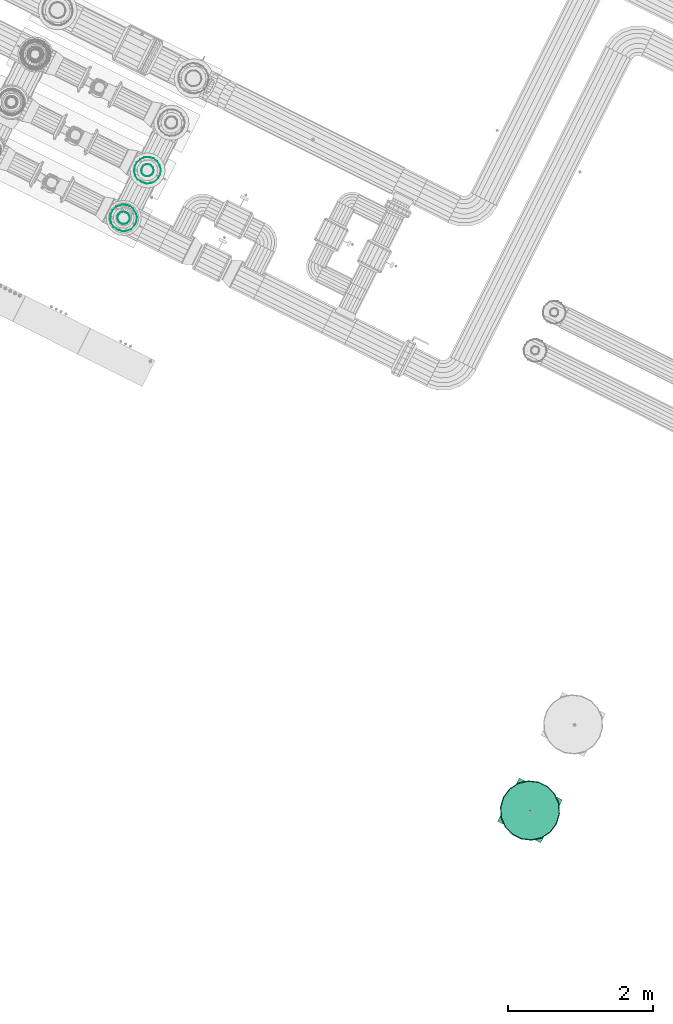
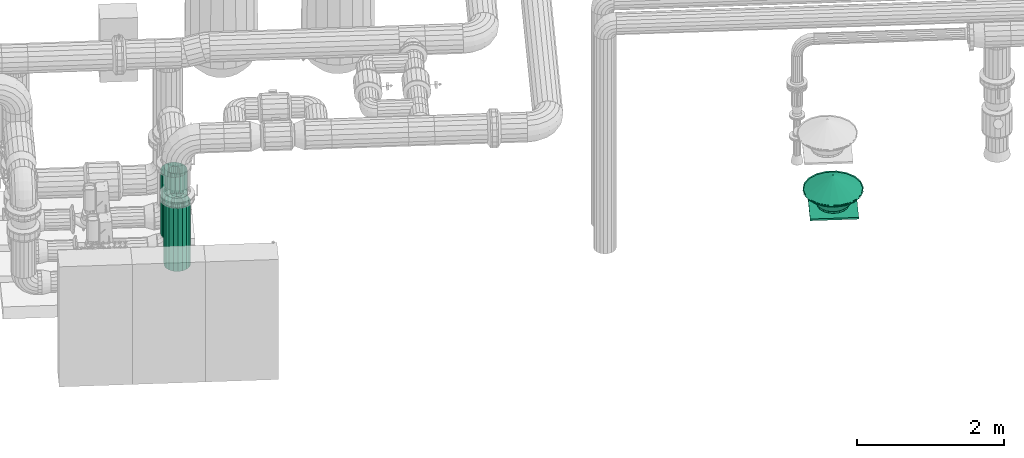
# One storey, part 2 of 152: 2 flow segments, 1 flow moving device.
"""IFC2X3 building model written with IfcOpenShell, lengths in metres."""

import ifcopenshell
import ifcopenshell.guid

model = None  # the IFC model being written
_history = None  # IfcOwnerHistory: only IFC2X3 demands one
_inside = {}  # id of a spatial element -> (the spatial element, [elements in it])
_under = {}  # id of a project, library or spatial element -> (it, [spatial elements below it])
_declared = {}  # id of a project -> (the project, [libraries it declares])
_typed = {}  # id of a type object -> (the type object, [elements of that type])
_made_of = {}  # id of a material, layer set ... -> (it, [elements and type objects made of it])


def new_model(schema):
    """Start an empty IFC model of exactly this schema.

    Asked for "IFC4X3", IfcOpenShell would pick the latest addendum, in which some entities
    have other attributes; the version numbers below select the first issue.
    IFC2X3 requires an IfcOwnerHistory on every rooted entity: one is made here for all.
    """
    global model, _history
    if schema == "IFC4X3":
        model = ifcopenshell.file(schema_version=(4, 3, 0, 0))
    else:
        model = ifcopenshell.file(schema=schema)
    _inside.clear()
    _under.clear()
    _declared.clear()
    _typed.clear()
    _made_of.clear()
    _history = None
    if model.schema == "IFC2X3":
        org = make("IfcOrganization", Name="unknown")
        user = make(
            "IfcPersonAndOrganization",
            ThePerson=make("IfcPerson", FamilyName="unknown"),
            TheOrganization=org,
        )
        app = make(
            "IfcApplication",
            ApplicationDeveloper=org,
            Version="unknown",
            ApplicationFullName="unknown",
            ApplicationIdentifier="unknown",
        )
        _history = make(
            "IfcOwnerHistory",
            OwningUser=user,
            OwningApplication=app,
            ChangeAction="ADDED",
            CreationDate=0,
        )
    return model


def make(cls, **values):
    """One entity of the class cls with the attributes given. An attribute that is None is left unset."""
    return model.create_entity(
        cls, **{name: value for name, value in values.items() if value is not None}
    )


def rooted(cls, **values):
    """An entity with a GlobalId (a new one), such as an element, a storey or a relation."""
    return make(cls, GlobalId=ifcopenshell.guid.new(), OwnerHistory=_history, **values)


def si_unit(unit_type, name, prefix=None):
    """IfcSIUnit, for example si_unit("LENGTHUNIT", "METRE", prefix="MILLI")."""
    return make("IfcSIUnit", UnitType=unit_type, Prefix=prefix, Name=name)


def derived_unit(unit_type, elements):
    """IfcDerivedUnit: a product of units, each with its exponent."""
    return make(
        "IfcDerivedUnit",
        Elements=[
            make("IfcDerivedUnitElement", Unit=unit, Exponent=power)
            for unit, power in elements
        ],
        UnitType=unit_type,
    )


def assignment(units):
    """IfcUnitAssignment: the units of a project."""
    return None if units is None else make("IfcUnitAssignment", Units=units)


def point(xyz):
    """IfcCartesianPoint."""
    return None if xyz is None else make("IfcCartesianPoint", Coordinates=xyz)


def direction(xyz):
    """IfcDirection."""
    return None if xyz is None else make("IfcDirection", DirectionRatios=xyz)


def frame(location, z_axis=None, x_axis=None):
    """IfcAxis2Placement3D, a coordinate frame: its origin and axes. An axis left out is left unset."""
    return make(
        "IfcAxis2Placement3D",
        Location=point(location),
        Axis=direction(z_axis),
        RefDirection=direction(x_axis),
    )


def origin():
    """The frame at (0, 0, 0) with its axes left unset."""
    return frame((0.0, 0.0, 0.0))


def place(relative_to, where):
    """IfcLocalPlacement: puts the frame where relative to a parent placement (None: the world)."""
    return make(
        "IfcLocalPlacement", PlacementRelTo=relative_to, RelativePlacement=where
    )


def context(
    kind, dimensions, precision=None, world=None, true_north=None, identifier=None
):
    """IfcGeometricRepresentationContext, for example the 3D "Model" context."""
    return make(
        "IfcGeometricRepresentationContext",
        ContextIdentifier=identifier,
        ContextType=kind,
        CoordinateSpaceDimension=dimensions,
        Precision=precision,
        WorldCoordinateSystem=world,
        TrueNorth=true_north,
    )


def subcontext(parent, identifier, kind, view, scale=None):
    """IfcGeometricRepresentationSubContext, for example "Body" below "Model"."""
    return make(
        "IfcGeometricRepresentationSubContext",
        ContextIdentifier=identifier,
        ContextType=kind,
        ParentContext=parent,
        TargetScale=scale,
        TargetView=view,
    )


def project(units=None, contexts=None):
    """IfcProject with its units and contexts."""
    return rooted(
        "IfcProject",
        Name="project",
        RepresentationContexts=contexts,
        UnitsInContext=assignment(units),
    )


def spatial(cls, under=None, at=None, **own):
    """A site, building, storey or space (cls), placed at a placement, below another one or the project."""
    s = rooted(cls, ObjectPlacement=at, **own)
    if under is not None:
        _under.setdefault(under.id(), (under, []))[1].append(s)
    return s


def faces_of(points, faces, orient=None, outer=None):
    """IfcFace entities. A face is a list of loops; a loop is a list of indices into points, from 0.

    orient and outer hold one flag for each loop. By default every Orientation is true, the
    first loop of a face is its IfcFaceOuterBound and the others are IfcFaceBound.
    """
    made = []
    for i, loops in enumerate(faces):
        bounds = []
        for j, loop in enumerate(loops):
            is_outer = j == 0 if outer is None else outer[i][j]
            bounds.append(
                make(
                    "IfcFaceOuterBound" if is_outer else "IfcFaceBound",
                    Bound=make("IfcPolyLoop", Polygon=[points[k] for k in loop]),
                    Orientation=True if orient is None else orient[i][j],
                )
            )
        made.append(make("IfcFace", Bounds=bounds))
    return made


def face_set(faces, orient=None, outer=None):
    """The faces of one IfcConnectedFaceSet. surface_model builds it on its shared points."""
    return ("IfcConnectedFaceSet", faces, orient, outer)


def surface_model(cls, points, shells):
    """IfcFaceBasedSurfaceModel or IfcShellBasedSurfaceModel (cls): surfaces that need not close."""
    shared = [point(p) for p in points]
    made = [make(c, CfsFaces=faces_of(shared, fs, o, b)) for c, fs, o, b in shells]
    if cls == "IfcFaceBasedSurfaceModel":
        return make(cls, FbsmFaces=made)
    return make(cls, SbsmBoundary=made)


def shape(context_of_items, identifier, shape_type, items):
    """IfcShapeRepresentation: the items that make up one representation, for example the "Body"."""
    return make(
        "IfcShapeRepresentation",
        ContextOfItems=context_of_items,
        RepresentationIdentifier=identifier,
        RepresentationType=shape_type,
        Items=items,
    )


def source(mapping_origin, context_of_items, identifier, shape_type, items):
    """IfcRepresentationMap: a shape defined once, which mapped items show again and again."""
    return make(
        "IfcRepresentationMap",
        MappingOrigin=mapping_origin,
        MappedRepresentation=shape(context_of_items, identifier, shape_type, items),
    )


def transform(
    local_origin,
    x_axis=None,
    y_axis=None,
    z_axis=None,
    scale=None,
    scale2=None,
    scale3=None,
    uniform=True,
):
    """IfcCartesianTransformationOperator3D, or its non-uniform kind. x_axis, y_axis, z_axis: its Axis1, 2, 3."""
    if uniform:
        return make(
            "IfcCartesianTransformationOperator3D",
            Axis1=direction(x_axis),
            Axis2=direction(y_axis),
            LocalOrigin=point(local_origin),
            Scale=scale,
            Axis3=direction(z_axis),
        )
    return make(
        "IfcCartesianTransformationOperator3DnonUniform",
        Axis1=direction(x_axis),
        Axis2=direction(y_axis),
        LocalOrigin=point(local_origin),
        Scale=scale,
        Axis3=direction(z_axis),
        Scale2=scale2,
        Scale3=scale3,
    )


def mapped(mapping_source, mapping_target):
    """IfcMappedItem: shows the shape of a source again, moved by a transform."""
    return make(
        "IfcMappedItem", MappingSource=mapping_source, MappingTarget=mapping_target
    )


def material(Name=None, Category=None):
    """IfcMaterial."""
    return make("IfcMaterial", Name=Name, Category=Category)


def made_of(thing, what):
    """Note that an element or type object is made of a material, layer set ...; save() writes the relation."""
    if what is not None:
        _made_of.setdefault(what.id(), (what, []))[1].append(thing)
    return thing


def type_object(cls, material=None, **own):
    """A type object (cls), such as IfcWallType, which elements share."""
    return made_of(rooted(cls, **own), material)


def type_shapes(of_type, sources):
    """Give a type object the sources (RepresentationMaps) that its elements show as mapped items."""
    of_type.RepresentationMaps = sources


def element(
    cls,
    number,
    at=None,
    inside=None,
    cuts=None,
    type_object=None,
    material=None,
    context=None,
    identifier="Body",
    shape_type=None,
    held_by="IfcProductDefinitionShape",
    body=None,
    shapes=None,
    **own,
):
    """One element of the class cls, such as IfcWall. Its Tag is "e" and its number.

    at: its placement. inside: the storey or other place that contains it. cuts: it is an
    opening in that element (IfcRelVoidsElement). A single representation is given by context,
    identifier, shape_type and body (its items); several are given by shapes. held_by: the class
    of the entity that holds the representations. save() writes the other relations.
    """
    e = rooted(cls, Tag="e%d" % number, ObjectPlacement=at, **own)
    if body is not None:
        shapes = [shape(context, identifier, shape_type, body)]
    if shapes is not None:
        e.Representation = make(held_by, Representations=shapes)
    if inside is not None:
        _inside.setdefault(inside.id(), (inside, []))[1].append(e)
    if cuts is not None:
        rooted(
            "IfcRelVoidsElement", RelatingBuildingElement=cuts, RelatedOpeningElement=e
        )
    if type_object is not None:
        _typed.setdefault(type_object.id(), (type_object, []))[1].append(e)
    return made_of(e, material)


def aggregate(whole, parts):
    """IfcRelAggregates: a whole, such as a stair, and the parts it consists of."""
    return rooted("IfcRelAggregates", RelatingObject=whole, RelatedObjects=parts)


def save(model, path):
    """Write the relations noted so far, then the file.

    IfcRelAggregates (storeys below a building ...), IfcRelContainedInSpatialStructure (elements
    in a storey), IfcRelDefinesByType, IfcRelAssociatesMaterial and IfcRelDeclares: one each for
    every whole, place, type object, material and project.
    """
    for whole, parts in _under.values():
        aggregate(whole, parts)
    for where, things in _inside.values():
        rooted(
            "IfcRelContainedInSpatialStructure",
            RelatedElements=things,
            RelatingStructure=where,
        )
    for kind, things in _typed.values():
        rooted("IfcRelDefinesByType", RelatedObjects=things, RelatingType=kind)
    for what, things in _made_of.values():
        rooted("IfcRelAssociatesMaterial", RelatedObjects=things, RelatingMaterial=what)
    for by, libraries in _declared.values():
        rooted("IfcRelDeclares", RelatingContext=by, RelatedDefinitions=libraries)
    model.write(path)


model = new_model("IFC2X3")

# Units and contexts
model_context = context("Model", 3, precision=5.2338327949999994e-05, world=origin(), true_north=direction((0.0, 1.0)))
body_context = subcontext(model_context, "Body", "Model", "MODEL_VIEW")
ifc_project = project(units=[si_unit("LENGTHUNIT", "METRE"), si_unit("AREAUNIT", "SQUARE_METRE"), si_unit("VOLUMEUNIT", "CUBIC_METRE"), si_unit("MASSUNIT", "GRAM", prefix="KILO"), si_unit("PLANEANGLEUNIT", "RADIAN"), derived_unit("THERMALTRANSMITTANCEUNIT", [(si_unit("MASSUNIT", "GRAM", prefix="KILO"), 1), (si_unit("THERMODYNAMICTEMPERATUREUNIT", "KELVIN"), -1), (si_unit("TIMEUNIT", "SECOND"), -3)])], contexts=[model_context])

# Site, building, storey
site_placement = place(None, frame((0.0, 0.0, 0.0), z_axis=(0.0, 0.0, 1.0), x_axis=(0.8939966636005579, -0.4480736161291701, 0.0)))
site = spatial("IfcSite", under=ifc_project, at=site_placement, Name="Default", CompositionType="ELEMENT")
building_placement = place(site_placement, origin())
building = spatial("IfcBuilding", under=site, at=building_placement, CompositionType="ELEMENT")
storey_placement = place(building_placement, frame((0.0, 0.0, 2.7499999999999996)))
storey = spatial("IfcBuildingStorey", under=building, at=storey_placement, Name="1. Obergeschoss", CompositionType="ELEMENT", Elevation=2.7499999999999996)

# Flow segments
ifc_material_1 = material(Name="IfcSurfaceStyle #9317")
distribution_element_type_1 = type_object("IfcDistributionElementType", Name="Stahlrohr nach DIN 2448 238323:Stahlrohr nach DIN 2448 238323", material=ifc_material_1)
shared_shape_1 = source(origin(), body_context, "Body", "SurfaceModel", [
    surface_model("IfcFaceBasedSurfaceModel", [(11.725814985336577, 5.77263762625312, 3.554154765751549), (11.754595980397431, 5.777712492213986, 3.554154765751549), (11.754595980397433, 5.777712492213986, 4.607303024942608), (11.725814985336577, 5.772637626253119, 4.607303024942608), (11.779905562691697, 5.792324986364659, 3.554154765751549), (11.779905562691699, 5.792324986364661, 4.607303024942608), (11.798691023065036, 5.8147126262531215, 3.554154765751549), (11.798691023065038, 5.814712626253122, 4.607303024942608), (11.808686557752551, 5.842175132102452, 3.554154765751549), (11.808686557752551, 5.84217513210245, 4.607303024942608), (11.80868655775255, 5.871400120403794, 3.554154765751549), (11.80868655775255, 5.871400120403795, 4.607303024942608), (11.798691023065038, 5.898862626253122, 3.554154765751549), (11.798691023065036, 5.898862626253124, 4.607303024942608), (11.779905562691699, 5.921250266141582, 3.554154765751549), (11.779905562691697, 5.921250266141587, 4.607303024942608), (11.754595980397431, 5.935862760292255, 3.554154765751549), (11.75459598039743, 5.935862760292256, 4.607303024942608), (11.725814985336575, 5.94093762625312, 3.554154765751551), (11.725814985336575, 5.940937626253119, 4.607303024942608), (11.69703399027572, 5.935862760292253, 3.554154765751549), (11.697033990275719, 5.935862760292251, 4.607303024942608), (11.671724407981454, 5.921250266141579, 3.554154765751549), (11.671724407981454, 5.921250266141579, 4.607303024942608), (11.652938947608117, 5.898862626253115, 3.554154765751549), (11.652938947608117, 5.8988626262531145, 4.607303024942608), (11.6429434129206, 5.871400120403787, 3.554154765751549), (11.6429434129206, 5.871400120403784, 4.607303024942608), (11.6429434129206, 5.8421751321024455, 3.554154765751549), (11.642943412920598, 5.84217513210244, 4.607303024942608), (11.652938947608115, 5.814712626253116, 3.554154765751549), (11.652938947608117, 5.814712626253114, 4.607303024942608), (11.671724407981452, 5.792324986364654, 3.554154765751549), (11.671724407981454, 5.792324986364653, 4.607303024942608), (11.697033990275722, 5.777712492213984, 3.554154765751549), (11.697033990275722, 5.777712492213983, 4.607303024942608), (11.725814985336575, 5.672637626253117, 3.554154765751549), (11.78879799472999, 5.6837432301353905, 3.554154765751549), (11.788797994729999, 5.683743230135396, 4.607303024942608), (11.72581498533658, 5.672637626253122, 4.607303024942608), (11.84418432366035, 5.71572054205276, 3.554154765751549), (11.844184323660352, 5.715720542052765, 4.607303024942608), (11.885293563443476, 5.764712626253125, 3.554154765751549), (11.885293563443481, 5.764712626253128, 4.607303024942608), (11.907167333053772, 5.8248103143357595, 3.554154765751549), (11.907167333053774, 5.824810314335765, 4.607303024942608), (11.907167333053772, 5.888764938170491, 3.554154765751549), (11.907167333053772, 5.888764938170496, 4.607303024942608), (11.885293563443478, 5.948862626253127, 3.554154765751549), (11.885293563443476, 5.94886262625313, 4.607303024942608), (11.84418432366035, 5.9978547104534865, 3.554154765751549), (11.844184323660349, 5.997854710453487, 4.607303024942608), (11.788797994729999, 6.029832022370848, 3.554154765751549), (11.78879799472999, 6.02983202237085, 4.607303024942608), (11.725814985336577, 6.040937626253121, 3.554154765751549), (11.725814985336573, 6.040937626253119, 4.607303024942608), (11.662831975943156, 6.029832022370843, 3.554154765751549), (11.66283197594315, 6.029832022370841, 4.607303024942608), (11.607445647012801, 5.997854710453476, 3.554154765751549), (11.607445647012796, 5.9978547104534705, 4.607303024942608), (11.566336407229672, 5.948862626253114, 3.554154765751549), (11.56633640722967, 5.948862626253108, 4.607303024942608), (11.544462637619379, 5.8887649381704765, 3.554154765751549), (11.544462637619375, 5.888764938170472, 4.607303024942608), (11.544462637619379, 5.824810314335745, 3.554154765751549), (11.544462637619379, 5.824810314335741, 4.607303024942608), (11.56633640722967, 5.764712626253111, 3.554154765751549), (11.566336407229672, 5.764712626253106, 4.607303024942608), (11.607445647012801, 5.715720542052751, 3.554154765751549), (11.607445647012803, 5.7157205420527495, 4.607303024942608), (11.662831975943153, 5.6837432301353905, 3.554154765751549), (11.662831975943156, 5.683743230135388, 4.607303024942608)], [face_set([[[0, 1, 2, 3]], [[1, 4, 5, 2]], [[4, 6, 7, 5]], [[6, 8, 9, 7]], [[8, 10, 11, 9]], [[10, 12, 13, 11]], [[12, 14, 15, 13]], [[14, 16, 17, 15]], [[16, 18, 19, 17]], [[18, 20, 21, 19]], [[20, 22, 23, 21]], [[22, 24, 25, 23]], [[24, 26, 27, 25]], [[26, 28, 29, 27]], [[28, 30, 31, 29]], [[30, 32, 33, 31]], [[32, 34, 35, 33]], [[34, 0, 3, 35]], [[36, 37, 38, 39]], [[37, 40, 41, 38]], [[40, 42, 43, 41]], [[42, 44, 45, 43]], [[44, 46, 47, 45]], [[46, 48, 49, 47]], [[48, 50, 51, 49]], [[50, 52, 53, 51]], [[52, 54, 55, 53]], [[54, 56, 57, 55]], [[56, 58, 59, 57]], [[58, 60, 61, 59]], [[60, 62, 63, 61]], [[62, 64, 65, 63]], [[64, 66, 67, 65]], [[66, 68, 69, 67]], [[68, 70, 71, 69]], [[70, 36, 39, 71]]])]),
])
type_shapes(distribution_element_type_1, [shared_shape_1])
flow_segment_1_placement = place(storey_placement, frame((0.0, 0.0, -2.7499999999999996)))
element("IfcFlowSegment", 1, at=flow_segment_1_placement, inside=storey, type_object=distribution_element_type_1, material=ifc_material_1, Name="Stahlrohr nach DIN 2448", ObjectType="Stahlrohr nach DIN 2448", context=body_context, shape_type="MappedRepresentation", body=[
    mapped(shared_shape_1, transform((0.0, 0.0, 0.0), scale=1.0)),
])
distribution_element_type_2 = type_object("IfcDistributionElementType", Name="Stahlrohr nach DIN 2448 238604:Stahlrohr nach DIN 2448 238604", material=ifc_material_1)
shared_shape_2 = source(origin(), body_context, "Body", "SurfaceModel", [
    surface_model("IfcFaceBasedSurfaceModel", [(11.725814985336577, 6.507598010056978, 4.607303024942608), (11.69703399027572, 6.5126728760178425, 4.607303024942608), (11.697033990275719, 6.5126728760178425, 3.554154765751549), (11.725814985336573, 6.507598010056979, 3.554154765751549), (11.671724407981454, 6.5272853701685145, 4.607303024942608), (11.671724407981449, 6.527285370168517, 3.554154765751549), (11.652938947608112, 6.549673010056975, 4.607303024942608), (11.652938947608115, 6.549673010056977, 3.554154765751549), (11.6429434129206, 6.577135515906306, 4.607303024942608), (11.6429434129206, 6.5771355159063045, 3.554154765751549), (11.6429434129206, 6.6063605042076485, 4.607303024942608), (11.642943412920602, 6.606360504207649, 3.554154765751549), (11.652938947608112, 6.633823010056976, 4.607303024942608), (11.652938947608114, 6.633823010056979, 3.554154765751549), (11.671724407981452, 6.656210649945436, 4.607303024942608), (11.671724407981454, 6.656210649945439, 3.554154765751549), (11.69703399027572, 6.670823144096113, 4.607303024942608), (11.697033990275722, 6.670823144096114, 3.554154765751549), (11.725814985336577, 6.675898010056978, 4.607303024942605), (11.725814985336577, 6.675898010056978, 3.554154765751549), (11.754595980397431, 6.6708231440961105, 4.607303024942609), (11.754595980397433, 6.67082314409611, 3.554154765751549), (11.779905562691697, 6.6562106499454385, 4.607303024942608), (11.779905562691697, 6.6562106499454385, 3.554154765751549), (11.798691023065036, 6.633823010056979, 4.607303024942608), (11.798691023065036, 6.633823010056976, 3.554154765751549), (11.808686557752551, 6.6063605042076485, 4.607303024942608), (11.808686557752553, 6.606360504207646, 3.554154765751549), (11.808686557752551, 6.577135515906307, 4.607303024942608), (11.808686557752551, 6.577135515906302, 3.554154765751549), (11.798691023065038, 6.549673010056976, 4.607303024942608), (11.798691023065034, 6.549673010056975, 3.554154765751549), (11.779905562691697, 6.527285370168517, 4.607303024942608), (11.779905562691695, 6.5272853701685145, 3.554154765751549), (11.75459598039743, 6.5126728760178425, 4.607303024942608), (11.75459598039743, 6.512672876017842, 3.554154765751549), (11.725814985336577, 6.407598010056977, 4.607303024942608), (11.662831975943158, 6.418703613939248, 4.607303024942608), (11.662831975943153, 6.418703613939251, 3.554154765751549), (11.72581498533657, 6.40759801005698, 3.554154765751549), (11.6074456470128, 6.450680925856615, 4.607303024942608), (11.607445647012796, 6.450680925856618, 3.554154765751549), (11.56633640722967, 6.499673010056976, 4.607303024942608), (11.566336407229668, 6.49967301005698, 3.554154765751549), (11.544462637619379, 6.5597706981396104, 4.607303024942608), (11.544462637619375, 6.559770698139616, 3.554154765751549), (11.544462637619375, 6.62372532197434, 4.607303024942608), (11.544462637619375, 6.623725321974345, 3.554154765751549), (11.566336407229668, 6.683823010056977, 4.607303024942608), (11.566336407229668, 6.68382301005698, 3.554154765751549), (11.6074456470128, 6.732815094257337, 4.607303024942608), (11.607445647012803, 6.7328150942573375, 3.554154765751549), (11.662831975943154, 6.7647924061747, 4.607303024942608), (11.662831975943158, 6.764792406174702, 3.554154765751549), (11.725814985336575, 6.775898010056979, 4.607303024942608), (11.725814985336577, 6.775898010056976, 3.554154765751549), (11.788797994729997, 6.764792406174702, 4.607303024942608), (11.788797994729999, 6.764792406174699, 3.554154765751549), (11.84418432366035, 6.7328150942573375, 4.607303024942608), (11.844184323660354, 6.732815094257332, 3.554154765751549), (11.885293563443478, 6.683823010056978, 4.607303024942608), (11.885293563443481, 6.683823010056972, 3.554154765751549), (11.90716733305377, 6.623725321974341, 4.607303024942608), (11.907167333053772, 6.623725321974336, 3.554154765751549), (11.907167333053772, 6.5597706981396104, 4.607303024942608), (11.907167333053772, 6.559770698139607, 3.554154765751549), (11.885293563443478, 6.499673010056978, 4.607303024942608), (11.885293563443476, 6.4996730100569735, 3.554154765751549), (11.84418432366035, 6.450680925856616, 4.607303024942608), (11.84418432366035, 6.450680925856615, 3.554154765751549), (11.788797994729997, 6.418703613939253, 4.607303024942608), (11.788797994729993, 6.41870361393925, 3.554154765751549)], [face_set([[[0, 1, 2, 3]], [[1, 4, 5, 2]], [[4, 6, 7, 5]], [[6, 8, 9, 7]], [[8, 10, 11, 9]], [[10, 12, 13, 11]], [[12, 14, 15, 13]], [[14, 16, 17, 15]], [[16, 18, 19, 17]], [[18, 20, 21, 19]], [[20, 22, 23, 21]], [[22, 24, 25, 23]], [[24, 26, 27, 25]], [[26, 28, 29, 27]], [[28, 30, 31, 29]], [[30, 32, 33, 31]], [[32, 34, 35, 33]], [[34, 0, 3, 35]], [[36, 37, 38, 39]], [[37, 40, 41, 38]], [[40, 42, 43, 41]], [[42, 44, 45, 43]], [[44, 46, 47, 45]], [[46, 48, 49, 47]], [[48, 50, 51, 49]], [[50, 52, 53, 51]], [[52, 54, 55, 53]], [[54, 56, 57, 55]], [[56, 58, 59, 57]], [[58, 60, 61, 59]], [[60, 62, 63, 61]], [[62, 64, 65, 63]], [[64, 66, 67, 65]], [[66, 68, 69, 67]], [[68, 70, 71, 69]], [[70, 36, 39, 71]]])]),
])
type_shapes(distribution_element_type_2, [shared_shape_2])
flow_segment_2_placement = place(storey_placement, frame((0.0, 0.0, -2.7499999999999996)))
element("IfcFlowSegment", 2, at=flow_segment_2_placement, inside=storey, type_object=distribution_element_type_2, material=ifc_material_1, Name="Stahlrohr nach DIN 2448", ObjectType="Stahlrohr nach DIN 2448", context=body_context, shape_type="MappedRepresentation", body=[
    mapped(shared_shape_2, transform((0.0, 0.0, 0.0), scale=1.0)),
])

# Flow moving device
ifc_material_2 = material(Name="IfcSurfaceStyle #271082")
distribution_element_type_3 = type_object("IfcDistributionElementType", Name="Dachventilator Rund:Dachventilator Rund", material=ifc_material_2)
shared_shape_3 = source(origin(), body_context, "Body", "SurfaceModel", [
    surface_model("IfcFaceBasedSurfaceModel", [(20.074394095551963, 0.723152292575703, 7.514089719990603), (20.074394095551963, 0.723152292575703, 7.544089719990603), (20.074394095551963, 1.388152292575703, 7.544089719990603), (20.074394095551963, 1.388152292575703, 7.514089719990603), (20.739394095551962, 1.388152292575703, 7.544089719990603), (20.739394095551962, 1.388152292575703, 7.514089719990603), (20.739394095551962, 0.723152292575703, 7.544089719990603), (20.739394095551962, 0.723152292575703, 7.514089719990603), (20.40689409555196, 1.274652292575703, 7.544089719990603), (20.33199168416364, 1.2614449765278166, 7.544089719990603), (20.33199168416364, 1.2614449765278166, 7.574089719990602), (20.40689409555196, 1.274652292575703, 7.574089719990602), (20.266123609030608, 1.2234160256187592, 7.544089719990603), (20.266123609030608, 1.2234160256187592, 7.574089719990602), (20.217234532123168, 1.1651522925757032, 7.544089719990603), (20.217234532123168, 1.1651522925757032, 7.574089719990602), (20.19122119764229, 1.0936812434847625, 7.544089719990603), (20.19122119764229, 1.0936812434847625, 7.574089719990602), (20.19122119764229, 1.0176233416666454, 7.544089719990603), (20.19122119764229, 1.0176233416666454, 7.574089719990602), (20.217234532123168, 0.9461522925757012, 7.544089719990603), (20.217234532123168, 0.9461522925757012, 7.574089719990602), (20.266123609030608, 0.8878885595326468, 7.544089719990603), (20.266123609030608, 0.8878885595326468, 7.574089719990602), (20.33199168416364, 0.8498596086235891, 7.544089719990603), (20.33199168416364, 0.8498596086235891, 7.574089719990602), (20.40689409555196, 0.8366522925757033, 7.544089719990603), (20.40689409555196, 0.8366522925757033, 7.574089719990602), (20.48179650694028, 0.8498596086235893, 7.544089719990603), (20.48179650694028, 0.8498596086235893, 7.574089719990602), (20.547664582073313, 0.8878885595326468, 7.544089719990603), (20.547664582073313, 0.8878885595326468, 7.574089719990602), (20.59655365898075, 0.9461522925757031, 7.544089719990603), (20.59655365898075, 0.9461522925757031, 7.574089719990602), (20.622566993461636, 1.0176233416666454, 7.544089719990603), (20.622566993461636, 1.0176233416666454, 7.574089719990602), (20.622566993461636, 1.093681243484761, 7.544089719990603), (20.622566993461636, 1.093681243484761, 7.574089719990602), (20.59655365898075, 1.1651522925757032, 7.544089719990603), (20.59655365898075, 1.1651522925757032, 7.574089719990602), (20.547664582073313, 1.2234160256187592, 7.544089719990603), (20.547664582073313, 1.2234160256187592, 7.574089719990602), (20.48179650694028, 1.2614449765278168, 7.544089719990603), (20.48179650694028, 1.2614449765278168, 7.574089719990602), (20.18789409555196, 1.055652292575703, 7.574089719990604), (20.201101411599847, 0.9807498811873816, 7.574089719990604), (20.016921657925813, 0.9137139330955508, 7.814089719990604), (19.991894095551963, 1.0556522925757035, 7.814089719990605), (20.239130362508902, 0.9148818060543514, 7.574089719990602), (20.088985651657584, 0.7888954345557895, 7.814089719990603), (20.297394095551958, 0.8659927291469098, 7.574089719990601), (20.199394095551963, 0.69625175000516, 7.814089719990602), (20.368865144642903, 0.8399793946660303, 7.574089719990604), (20.33483010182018, 0.6469570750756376, 7.814089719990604), (20.44492304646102, 0.8399793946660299, 7.574089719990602), (20.478958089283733, 0.6469570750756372, 7.814089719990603), (20.51639409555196, 0.8659927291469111, 7.574089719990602), (20.614394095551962, 0.6962517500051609, 7.814089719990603), (20.574657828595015, 0.9148818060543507, 7.574089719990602), (20.724802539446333, 0.7888954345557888, 7.814089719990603), (20.612686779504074, 0.9807498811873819, 7.574089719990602), (20.796866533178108, 0.9137139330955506, 7.814089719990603), (20.625894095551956, 1.0556522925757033, 7.574089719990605), (20.821894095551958, 1.0556522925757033, 7.814089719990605), (20.612686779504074, 1.130554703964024, 7.574089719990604), (20.796866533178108, 1.1975906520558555, 7.814089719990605), (20.574657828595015, 1.1964227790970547, 7.574089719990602), (20.724802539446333, 1.3224091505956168, 7.814089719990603), (20.51639409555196, 1.2453118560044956, 7.574089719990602), (20.614394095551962, 1.4150528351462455, 7.814089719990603), (20.44492304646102, 1.2713251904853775, 7.574089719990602), (20.478958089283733, 1.4643475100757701, 7.814089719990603), (20.368865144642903, 1.271325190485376, 7.574089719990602), (20.33483010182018, 1.4643475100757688, 7.814089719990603), (20.297394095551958, 1.2453118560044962, 7.574089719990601), (20.199394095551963, 1.415052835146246, 7.814089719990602), (20.239130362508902, 1.1964227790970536, 7.574089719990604), (20.088985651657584, 1.3224091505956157, 7.814089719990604), (20.201101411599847, 1.1305547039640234, 7.574089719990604), (20.016921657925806, 1.1975906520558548, 7.814089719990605), (20.40689409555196, 1.470652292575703, 7.784089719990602), (20.264955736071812, 1.445624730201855, 7.784089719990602), (20.264955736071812, 1.445624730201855, 7.794089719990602), (20.40689409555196, 1.470652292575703, 7.794089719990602), (20.140137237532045, 1.3735607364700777, 7.784089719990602), (20.140137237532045, 1.3735607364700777, 7.794089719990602), (20.047493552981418, 1.263152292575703, 7.784089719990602), (20.047493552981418, 1.263152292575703, 7.794089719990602), (19.998198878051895, 1.1277162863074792, 7.784089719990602), (19.998198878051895, 1.1277162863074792, 7.794089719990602), (19.998198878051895, 0.983588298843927, 7.784089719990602), (19.998198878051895, 0.983588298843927, 7.794089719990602), (20.047493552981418, 0.8481522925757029, 7.784089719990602), (20.047493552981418, 0.8481522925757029, 7.794089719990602), (20.140137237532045, 0.7377438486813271, 7.784089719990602), (20.140137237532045, 0.7377438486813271, 7.794089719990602), (20.264955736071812, 0.6656798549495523, 7.784089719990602), (20.264955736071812, 0.6656798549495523, 7.794089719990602), (20.40689409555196, 0.6406522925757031, 7.784089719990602), (20.40689409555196, 0.6406522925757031, 7.794089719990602), (20.548832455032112, 0.6656798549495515, 7.784089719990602), (20.548832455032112, 0.6656798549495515, 7.794089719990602), (20.673650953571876, 0.7377438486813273, 7.784089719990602), (20.673650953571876, 0.7377438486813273, 7.794089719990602), (20.766294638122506, 0.8481522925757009, 7.784089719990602), (20.766294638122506, 0.8481522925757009, 7.794089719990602), (20.815589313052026, 0.9835882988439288, 7.784089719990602), (20.815589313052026, 0.9835882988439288, 7.794089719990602), (20.815589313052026, 1.1277162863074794, 7.784089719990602), (20.815589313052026, 1.1277162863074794, 7.794089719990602), (20.766294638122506, 1.2631522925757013, 7.784089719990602), (20.766294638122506, 1.2631522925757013, 7.794089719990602), (20.673650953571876, 1.3735607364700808, 7.784089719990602), (20.673650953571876, 1.3735607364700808, 7.794089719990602), (20.548832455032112, 1.445624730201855, 7.784089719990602), (20.548832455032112, 1.445624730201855, 7.794089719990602), (19.991894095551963, 1.055652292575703, 7.794089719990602), (20.016921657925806, 0.9137139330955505, 7.794089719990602), (20.40689409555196, 1.0556522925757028, 8.034089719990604), (20.088985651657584, 0.7888954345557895, 7.794089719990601), (20.199394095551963, 0.6962517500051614, 7.794089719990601), (20.33483010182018, 0.6469570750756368, 7.794089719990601), (20.478958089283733, 0.6469570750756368, 7.794089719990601), (20.614394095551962, 0.6962517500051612, 7.794089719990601), (20.72480253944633, 0.7888954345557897, 7.794089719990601), (20.796866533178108, 0.9137139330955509, 7.7940897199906), (20.82189409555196, 1.055652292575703, 7.7940897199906), (20.796866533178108, 1.1975906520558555, 7.7940897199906), (20.724802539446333, 1.3224091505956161, 7.7940897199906), (20.614394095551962, 1.4150528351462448, 7.794089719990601), (20.478958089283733, 1.4643475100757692, 7.794089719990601), (20.33483010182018, 1.4643475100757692, 7.794089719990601), (20.199394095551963, 1.415052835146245, 7.794089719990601), (20.088985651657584, 1.3224091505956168, 7.794089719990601), (20.016921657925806, 1.1975906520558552, 7.794089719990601)], [face_set([[[0, 1, 2, 3]], [[3, 2, 4, 5]], [[5, 4, 6, 7]], [[7, 6, 1, 0]], [[0, 3, 5, 7]], [[6, 4, 2, 1]], [[8, 9, 10, 11]], [[9, 12, 13, 10]], [[12, 14, 15, 13]], [[14, 16, 17, 15]], [[16, 18, 19, 17]], [[18, 20, 21, 19]], [[20, 22, 23, 21]], [[22, 24, 25, 23]], [[24, 26, 27, 25]], [[26, 28, 29, 27]], [[28, 30, 31, 29]], [[30, 32, 33, 31]], [[32, 34, 35, 33]], [[34, 36, 37, 35]], [[36, 38, 39, 37]], [[38, 40, 41, 39]], [[40, 42, 43, 41]], [[42, 8, 11, 43]], [[44, 45, 46, 47]], [[45, 48, 49, 46]], [[48, 50, 51, 49]], [[50, 52, 53, 51]], [[52, 54, 55, 53]], [[54, 56, 57, 55]], [[56, 58, 59, 57]], [[58, 60, 61, 59]], [[60, 62, 63, 61]], [[62, 64, 65, 63]], [[64, 66, 67, 65]], [[66, 68, 69, 67]], [[68, 70, 71, 69]], [[70, 72, 73, 71]], [[72, 74, 75, 73]], [[74, 76, 77, 75]], [[76, 78, 79, 77]], [[78, 44, 47, 79]], [[80, 81, 82, 83]], [[81, 84, 85, 82]], [[84, 86, 87, 85]], [[86, 88, 89, 87]], [[88, 90, 91, 89]], [[90, 92, 93, 91]], [[92, 94, 95, 93]], [[94, 96, 97, 95]], [[96, 98, 99, 97]], [[98, 100, 101, 99]], [[100, 102, 103, 101]], [[102, 104, 105, 103]], [[104, 106, 107, 105]], [[106, 108, 109, 107]], [[108, 110, 111, 109]], [[110, 112, 113, 111]], [[112, 114, 115, 113]], [[114, 80, 83, 115]], [[116, 117, 118]], [[117, 119, 118]], [[119, 120, 118]], [[120, 121, 118]], [[121, 122, 118]], [[122, 123, 118]], [[123, 124, 118]], [[124, 125, 118]], [[125, 126, 118]], [[126, 127, 118]], [[127, 128, 118]], [[128, 129, 118]], [[129, 130, 118]], [[130, 131, 118]], [[131, 132, 118]], [[132, 133, 118]], [[133, 134, 118]], [[134, 116, 118]]])]),
])
type_shapes(distribution_element_type_3, [shared_shape_3])
flow_moving_device_placement = place(storey_placement, frame((0.0, 0.0, -2.7499999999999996)))
element("IfcFlowMovingDevice", 3, at=flow_moving_device_placement, inside=storey, type_object=distribution_element_type_3, material=ifc_material_2, Name="Dachventilator Rund", ObjectType="Dachventilator Rund", context=body_context, shape_type="MappedRepresentation", body=[
    mapped(shared_shape_3, transform((0.0, 0.0, 0.0), scale=1.0)),
])

save(model, "model.ifc")
